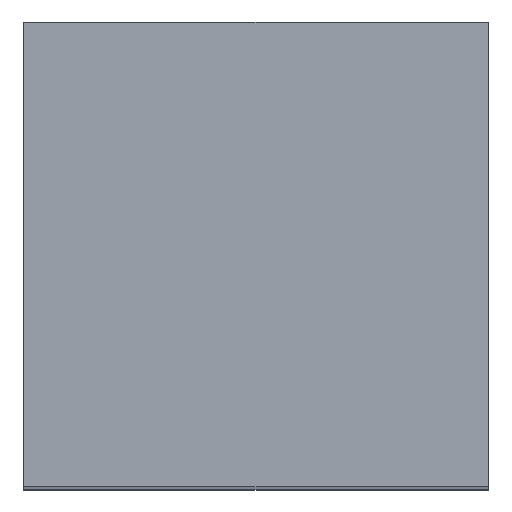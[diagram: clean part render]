
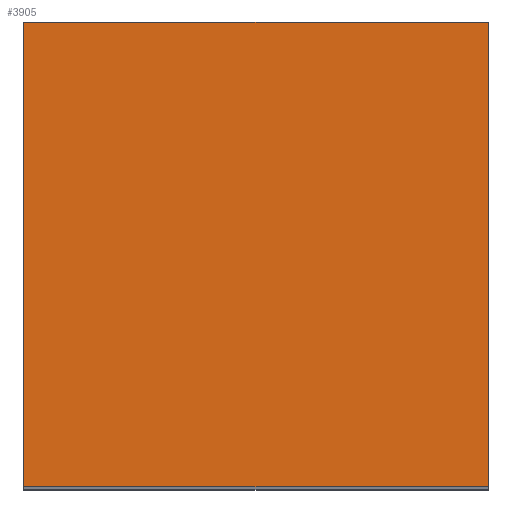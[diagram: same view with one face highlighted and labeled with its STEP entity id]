
A CAD part, top view. The second image highlights one B-rep face of the part: STEP entity #3905.
In plain terms, the highlighted planar face has unit normal (0, 0, 1).
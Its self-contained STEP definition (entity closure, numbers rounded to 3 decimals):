
#320 = AXIS2_PLACEMENT_3D ( 'NONE', #7862, #21621, #8023 ) ;
#1213 = LINE ( 'NONE', #20636, #3364 ) ;
#1741 = CARTESIAN_POINT ( 'NONE',  ( -19.05, 38.1, 75. ) ) ;
#2336 = VERTEX_POINT ( 'NONE', #11080 ) ;
#2530 = DIRECTION ( 'NONE',  ( 1., 0., 0. ) ) ;
#2703 = CARTESIAN_POINT ( 'NONE',  ( 19.05, 0., 75. ) ) ;
#3364 = VECTOR ( 'NONE', #14528, 1000. ) ;
#3375 = CARTESIAN_POINT ( 'NONE',  ( 19.05, 38.1, 75. ) ) ;
#3905 = ADVANCED_FACE ( 'NONE', ( #24395 ), #25539, .F. ) ;
#3963 = DIRECTION ( 'NONE',  ( 0., -1., 0. ) ) ;
#5022 = VERTEX_POINT ( 'NONE', #7365 ) ;
#6440 = EDGE_LOOP ( 'NONE', ( #24140, #24430, #18086, #16891 ) ) ;
#7073 = EDGE_CURVE ( 'NONE', #5022, #11156, #1213, .T. ) ;
#7365 = CARTESIAN_POINT ( 'NONE',  ( -19.05, 0., 75. ) ) ;
#7862 = CARTESIAN_POINT ( 'NONE',  ( -19.05, 38.1, 75. ) ) ;
#7997 = EDGE_CURVE ( 'NONE', #21313, #11156, #15725, .T. ) ;
#8023 = DIRECTION ( 'NONE',  ( -1., 0., 0. ) ) ;
#8350 = DIRECTION ( 'NONE',  ( 0., -1., 0. ) ) ;
#10743 = LINE ( 'NONE', #14286, #13207 ) ;
#11080 = CARTESIAN_POINT ( 'NONE',  ( -19.05, 38.1, 75. ) ) ;
#11156 = VERTEX_POINT ( 'NONE', #2703 ) ;
#12645 = VECTOR ( 'NONE', #8350, 1000. ) ;
#13207 = VECTOR ( 'NONE', #2530, 1000. ) ;
#14286 = CARTESIAN_POINT ( 'NONE',  ( -19.05, 38.1, 75. ) ) ;
#14528 = DIRECTION ( 'NONE',  ( 1., 0., 0. ) ) ;
#15725 = LINE ( 'NONE', #18130, #12645 ) ;
#16891 = ORIENTED_EDGE ( 'NONE', *, *, #23604, .T. ) ;
#18086 = ORIENTED_EDGE ( 'NONE', *, *, #25287, .F. ) ;
#18130 = CARTESIAN_POINT ( 'NONE',  ( 19.05, 38.1, 75. ) ) ;
#18180 = LINE ( 'NONE', #1741, #21522 ) ;
#20636 = CARTESIAN_POINT ( 'NONE',  ( -19.05, 0., 75. ) ) ;
#21313 = VERTEX_POINT ( 'NONE', #3375 ) ;
#21522 = VECTOR ( 'NONE', #3963, 1000. ) ;
#21621 = DIRECTION ( 'NONE',  ( 0., 0., -1. ) ) ;
#23604 = EDGE_CURVE ( 'NONE', #2336, #5022, #18180, .T. ) ;
#24140 = ORIENTED_EDGE ( 'NONE', *, *, #7073, .T. ) ;
#24395 = FACE_OUTER_BOUND ( 'NONE', #6440, .T. ) ;
#24430 = ORIENTED_EDGE ( 'NONE', *, *, #7997, .F. ) ;
#25287 = EDGE_CURVE ( 'NONE', #2336, #21313, #10743, .T. ) ;
#25539 = PLANE ( 'NONE',  #320 ) ;
